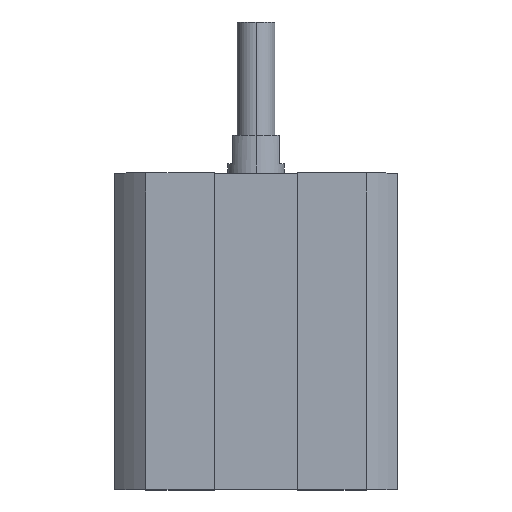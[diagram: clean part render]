
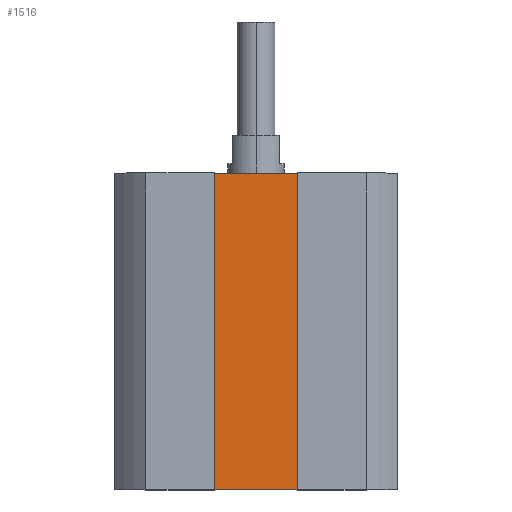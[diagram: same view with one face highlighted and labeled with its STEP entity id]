
A CAD part, top view. The second image highlights one B-rep face of the part: STEP entity #1516.
In plain terms, the highlighted planar face has unit normal (0, 0, 1).
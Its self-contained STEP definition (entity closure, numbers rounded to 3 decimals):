
#73 = CARTESIAN_POINT ( 'NONE',  ( 0., -33.5, 10. ) ) ;
#200 = CARTESIAN_POINT ( 'NONE',  ( 4.4, -33.5, 10. ) ) ;
#262 = EDGE_CURVE ( 'NONE', #1666, #1440, #1518, .T. ) ;
#452 = VECTOR ( 'NONE', #925, 1000. ) ;
#484 = ORIENTED_EDGE ( 'NONE', *, *, #262, .F. ) ;
#596 = VERTEX_POINT ( 'NONE', #980 ) ;
#795 = PLANE ( 'NONE',  #1009 ) ;
#855 = VECTOR ( 'NONE', #1060, 1000. ) ;
#884 = EDGE_LOOP ( 'NONE', ( #484, #973, #1153, #1025 ) ) ;
#925 = DIRECTION ( 'NONE',  ( 0., 1., 0. ) ) ;
#958 = DIRECTION ( 'NONE',  ( 1., 0., 0. ) ) ;
#973 = ORIENTED_EDGE ( 'NONE', *, *, #1098, .F. ) ;
#980 = CARTESIAN_POINT ( 'NONE',  ( -4.4, -33.5, 10. ) ) ;
#1009 = AXIS2_PLACEMENT_3D ( 'NONE', #73, #2058, #958 ) ;
#1025 = ORIENTED_EDGE ( 'NONE', *, *, #2076, .T. ) ;
#1060 = DIRECTION ( 'NONE',  ( 1., 0., 0. ) ) ;
#1098 = EDGE_CURVE ( 'NONE', #596, #1666, #1957, .T. ) ;
#1153 = ORIENTED_EDGE ( 'NONE', *, *, #1793, .T. ) ;
#1187 = DIRECTION ( 'NONE',  ( 1., 0., 0. ) ) ;
#1231 = CARTESIAN_POINT ( 'NONE',  ( -4.4, -33.5, 10. ) ) ;
#1288 = VERTEX_POINT ( 'NONE', #1446 ) ;
#1301 = CARTESIAN_POINT ( 'NONE',  ( -4.4, 0., 10. ) ) ;
#1424 = DIRECTION ( 'NONE',  ( 0., 1., 0. ) ) ;
#1440 = VERTEX_POINT ( 'NONE', #1513 ) ;
#1446 = CARTESIAN_POINT ( 'NONE',  ( 4.4, -33.5, 10. ) ) ;
#1513 = CARTESIAN_POINT ( 'NONE',  ( 4.4, 0., 10. ) ) ;
#1516 = ADVANCED_FACE ( 'NONE', ( #2318 ), #795, .T. ) ;
#1518 = LINE ( 'NONE', #2141, #855 ) ;
#1537 = VECTOR ( 'NONE', #1187, 1000. ) ;
#1666 = VERTEX_POINT ( 'NONE', #1301 ) ;
#1674 = LINE ( 'NONE', #200, #452 ) ;
#1786 = VECTOR ( 'NONE', #1424, 1000. ) ;
#1793 = EDGE_CURVE ( 'NONE', #596, #1288, #2032, .T. ) ;
#1957 = LINE ( 'NONE', #1231, #1786 ) ;
#2032 = LINE ( 'NONE', #2104, #1537 ) ;
#2058 = DIRECTION ( 'NONE',  ( 0., 0., 1. ) ) ;
#2076 = EDGE_CURVE ( 'NONE', #1288, #1440, #1674, .T. ) ;
#2104 = CARTESIAN_POINT ( 'NONE',  ( 0., -33.5, 10. ) ) ;
#2141 = CARTESIAN_POINT ( 'NONE',  ( 0., 0., 10. ) ) ;
#2318 = FACE_OUTER_BOUND ( 'NONE', #884, .T. ) ;
